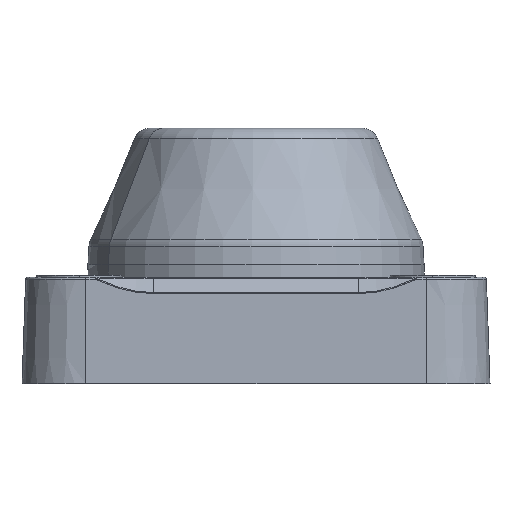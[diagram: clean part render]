
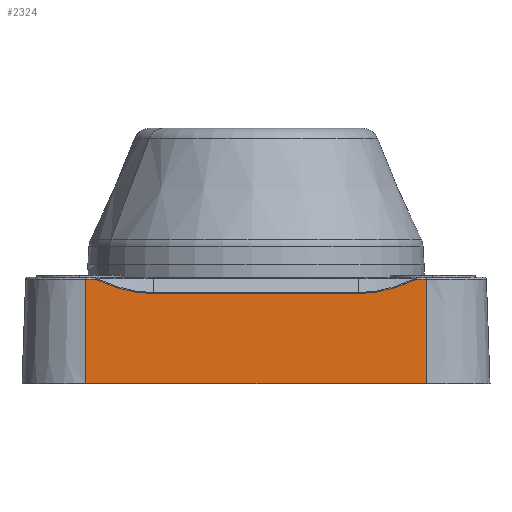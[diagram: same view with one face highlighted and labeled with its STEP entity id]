
A CAD part, left-side view. The second image highlights one B-rep face of the part: STEP entity #2324.
In plain terms, the highlighted planar face has unit normal (-0.999, 0, 0.035).
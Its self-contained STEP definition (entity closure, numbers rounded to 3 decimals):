
#751=CARTESIAN_POINT('Vertex',(-54.109,40.,25.517)) ;
#771=CARTESIAN_POINT('Line Origine',(-54.109,0.,25.517)) ;
#775=CARTESIAN_POINT('Vertex',(-54.109,37.693,25.517)) ;
#922=CARTESIAN_POINT('Line Origine',(-54.109,-0.241,25.517)) ;
#926=CARTESIAN_POINT('Vertex',(-54.109,-37.693,25.517)) ;
#928=CARTESIAN_POINT('Vertex',(-54.109,-40.,25.517)) ;
#2241=CARTESIAN_POINT('Vertex',(-54.965,40.,1.)) ;
#2244=CARTESIAN_POINT('Line Origine',(-54.546,40.,13.)) ;
#2256=CARTESIAN_POINT('Axis2P3D Location',(-55.,0.,0.)) ;
#2261=CARTESIAN_POINT('Line Origine',(-54.965,0.,1.)) ;
#2265=CARTESIAN_POINT('Vertex',(-54.965,-40.,1.)) ;
#2268=CARTESIAN_POINT('Line Origine',(-54.546,-40.,13.)) ;
#2274=CARTESIAN_POINT('Control Point',(-54.109,-37.693,25.517)) ;
#2275=CARTESIAN_POINT('Control Point',(-54.113,-37.293,25.394)) ;
#2276=CARTESIAN_POINT('Control Point',(-54.119,-36.9,25.242)) ;
#2277=CARTESIAN_POINT('Control Point',(-54.125,-36.514,25.066)) ;
#2278=CARTESIAN_POINT('Vertex',(-54.125,-36.514,25.066)) ;
#2282=CARTESIAN_POINT('Control Point',(-54.225,-24.114,22.188)) ;
#2283=CARTESIAN_POINT('Control Point',(-54.225,-27.304,22.188)) ;
#2284=CARTESIAN_POINT('Control Point',(-54.207,-30.494,22.711)) ;
#2285=CARTESIAN_POINT('Control Point',(-54.172,-33.57,23.724)) ;
#2286=CARTESIAN_POINT('Control Point',(-54.125,-36.514,25.066)) ;
#2287=CARTESIAN_POINT('Vertex',(-54.225,-24.114,22.188)) ;
#2290=CARTESIAN_POINT('Line Origine',(-54.225,0.,22.188)) ;
#2294=CARTESIAN_POINT('Vertex',(-54.225,24.114,22.188)) ;
#2298=CARTESIAN_POINT('Control Point',(-54.125,36.514,25.066)) ;
#2299=CARTESIAN_POINT('Control Point',(-54.172,33.57,23.724)) ;
#2300=CARTESIAN_POINT('Control Point',(-54.207,30.497,22.712)) ;
#2301=CARTESIAN_POINT('Control Point',(-54.225,27.303,22.188)) ;
#2302=CARTESIAN_POINT('Control Point',(-54.225,24.114,22.188)) ;
#2303=CARTESIAN_POINT('Vertex',(-54.125,36.514,25.066)) ;
#2307=CARTESIAN_POINT('Control Point',(-54.125,36.514,25.066)) ;
#2308=CARTESIAN_POINT('Control Point',(-54.119,36.9,25.242)) ;
#2309=CARTESIAN_POINT('Control Point',(-54.113,37.293,25.394)) ;
#2310=CARTESIAN_POINT('Control Point',(-54.109,37.693,25.517)) ;
#772=DIRECTION('Vector Direction',(0.,-1.,0.)) ;
#923=DIRECTION('Vector Direction',(0.,-1.,0.)) ;
#2245=DIRECTION('Vector Direction',(-0.035,0.,-0.999)) ;
#2257=DIRECTION('Axis2P3D Direction',(0.999,0.,-0.035)) ;
#2258=DIRECTION('Axis2P3D XDirection',(0.,-1.,0.)) ;
#2262=DIRECTION('Vector Direction',(0.,-1.,0.)) ;
#2269=DIRECTION('Vector Direction',(-0.035,0.,-0.999)) ;
#2291=DIRECTION('Vector Direction',(0.,-1.,0.)) ;
#2259=AXIS2_PLACEMENT_3D('Plane Axis2P3D',#2256,#2257,#2258) ;
#2313=ORIENTED_EDGE('',*,*,#2267,.T.) ;
#2314=ORIENTED_EDGE('',*,*,#2272,.T.) ;
#2315=ORIENTED_EDGE('',*,*,#930,.F.) ;
#2316=ORIENTED_EDGE('',*,*,#2280,.T.) ;
#2317=ORIENTED_EDGE('',*,*,#2289,.T.) ;
#2318=ORIENTED_EDGE('',*,*,#2296,.T.) ;
#2319=ORIENTED_EDGE('',*,*,#2305,.T.) ;
#2320=ORIENTED_EDGE('',*,*,#2311,.T.) ;
#2321=ORIENTED_EDGE('',*,*,#777,.F.) ;
#2322=ORIENTED_EDGE('',*,*,#2248,.F.) ;
#773=VECTOR('Line Direction',#772,1.) ;
#924=VECTOR('Line Direction',#923,1.) ;
#2246=VECTOR('Line Direction',#2245,1.) ;
#2263=VECTOR('Line Direction',#2262,1.) ;
#2270=VECTOR('Line Direction',#2269,1.) ;
#2292=VECTOR('Line Direction',#2291,1.) ;
#2324=ADVANCED_FACE('PartBody',(#2323),#2260,.F.) ;
#2273=B_SPLINE_CURVE_WITH_KNOTS('',3,(#2274,#2275,#2276,#2277),.UNSPECIFIED.,.F.,.U.,(4,4),(33.968,35.829),.UNSPECIFIED.) ;
#2281=B_SPLINE_CURVE_WITH_KNOTS('',4,(#2282,#2283,#2284,#2285,#2286),.UNSPECIFIED.,.F.,.U.,(5,5),(33.094,51.223),.UNSPECIFIED.) ;
#2297=B_SPLINE_CURVE_WITH_KNOTS('',4,(#2298,#2299,#2300,#2301,#2302),.UNSPECIFIED.,.F.,.U.,(5,5),(14.964,33.093),.UNSPECIFIED.) ;
#2306=B_SPLINE_CURVE_WITH_KNOTS('',3,(#2307,#2308,#2309,#2310),.UNSPECIFIED.,.F.,.U.,(4,4),(54.775,56.636),.UNSPECIFIED.) ;
#777=EDGE_CURVE('',#752,#776,#774,.T.) ;
#930=EDGE_CURVE('',#927,#929,#925,.T.) ;
#2248=EDGE_CURVE('',#2242,#752,#2247,.F.) ;
#2267=EDGE_CURVE('',#2242,#2266,#2264,.T.) ;
#2272=EDGE_CURVE('',#2266,#929,#2271,.F.) ;
#2280=EDGE_CURVE('',#927,#2279,#2273,.T.) ;
#2289=EDGE_CURVE('',#2279,#2288,#2281,.F.) ;
#2296=EDGE_CURVE('',#2288,#2295,#2293,.F.) ;
#2305=EDGE_CURVE('',#2295,#2304,#2297,.F.) ;
#2311=EDGE_CURVE('',#2304,#776,#2306,.T.) ;
#2312=EDGE_LOOP('',(#2313,#2314,#2315,#2316,#2317,#2318,#2319,#2320,#2321,#2322)) ;
#2323=FACE_OUTER_BOUND('',#2312,.T.) ;
#774=LINE('Line',#771,#773) ;
#925=LINE('Line',#922,#924) ;
#2247=LINE('Line',#2244,#2246) ;
#2264=LINE('Line',#2261,#2263) ;
#2271=LINE('Line',#2268,#2270) ;
#2293=LINE('Line',#2290,#2292) ;
#2260=PLANE('',#2259) ;
#752=VERTEX_POINT('',#751) ;
#776=VERTEX_POINT('',#775) ;
#927=VERTEX_POINT('',#926) ;
#929=VERTEX_POINT('',#928) ;
#2242=VERTEX_POINT('',#2241) ;
#2266=VERTEX_POINT('',#2265) ;
#2279=VERTEX_POINT('',#2278) ;
#2288=VERTEX_POINT('',#2287) ;
#2295=VERTEX_POINT('',#2294) ;
#2304=VERTEX_POINT('',#2303) ;
